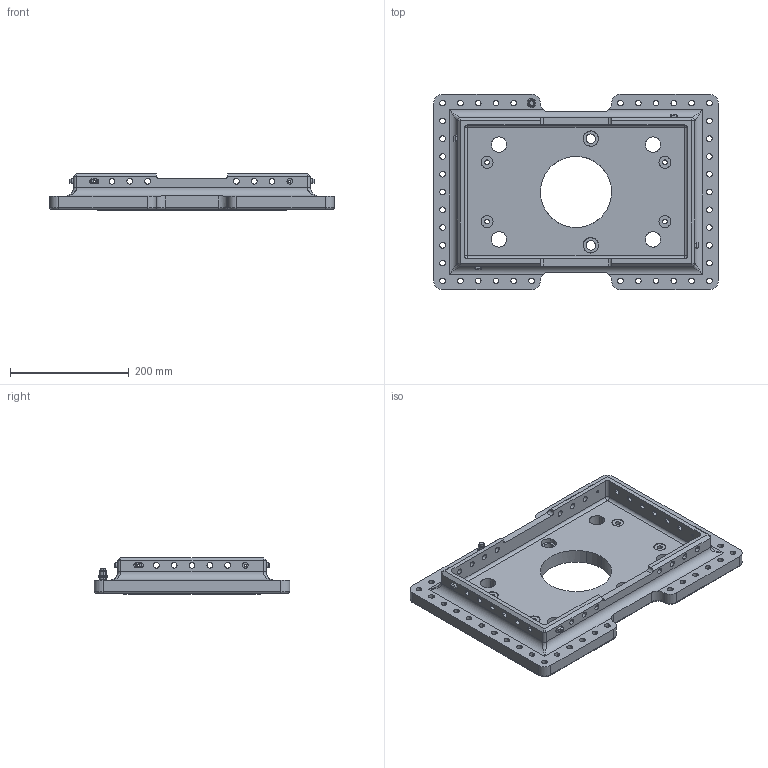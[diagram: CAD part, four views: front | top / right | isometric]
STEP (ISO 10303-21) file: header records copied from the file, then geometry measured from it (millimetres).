
FILE_DESCRIPTION(('STEP AP214'),'1');
FILE_NAME('EGT012_1702458_H_RAHMEN_300X450_SW50.CATPart.stp','2015-09-14T13:04:07',('3D-Tool'),(' '),'Spatial InterOp 3D',' ',' ');
FILE_SCHEMA(('automotive_design'));
Length unit declared in the file: millimetre
Products named in the file (1): EGT012_1702458_H_RAHMEN_300X450_SW50|PartBody|Chamfer.1
Bounding box: 480 x 330 x 62 mm (x, y, z)
Volume: 3526896.5 mm3; surface area: 457779.9 mm2
Topology: 1 solids, 2 shells, 876 faces, 2304 edges, 1484 vertices
Faces by surface type: cylinder 644, plane 146, cone 46, torus 32, bspline 4, sphere 4
Entity records: 36203 total; most frequent: CARTESIAN_POINT 6133, DIRECTION 5318, ORIENTED_EDGE 4584, EDGE_CURVE 2292, AXIS2_PLACEMENT_3D 2221, VERTEX_POINT 1484, CIRCLE 1348, EDGE_LOOP 1106
